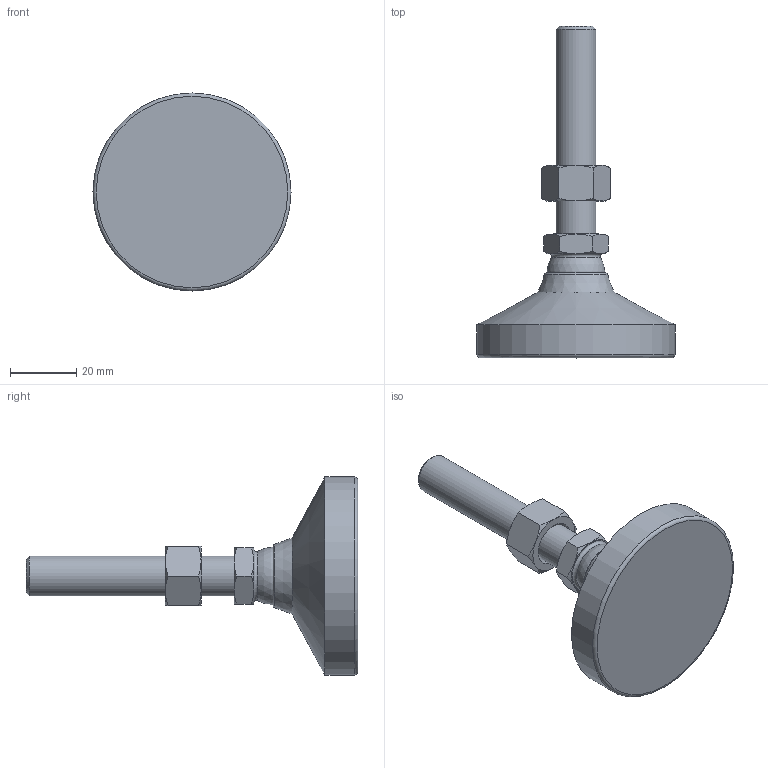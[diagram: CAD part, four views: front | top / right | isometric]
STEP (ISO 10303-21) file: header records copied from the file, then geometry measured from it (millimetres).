
FILE_DESCRIPTION( ( 'STEP AP214' ), ' ' );
FILE_NAME( 'O:/ganter_2015/teil_2/2_5/gn343_2/gn343_2_kr/Levelling foot with threaded stud GN 343.2-60-M12-63-KR-(0).stp', '2015-10-26T09:14:00', ( '' ), ( '' ), ' ', 'PARTsolutions', ' ' );
FILE_SCHEMA( ( 'AUTOMOTIVE_DESIGN { 1 0 10303 214 1 1 1 1 }' ) );
Length unit declared in the file: millimetre
Products named in the file (4): Levelling foot with threaded stud GN 343.2-60-M12-63-KR-(0); _Levelling foot with threaded stud GN 343.2-60-M12-63-KR-(0)_foot; _Levelling foot with threaded stud GN 343.2-60-M12-63-KR-(0)_screw; _Levelling foot with threaded stud GN 343.2-60-M12-63-KR-(0)_nut
Assembly tree (3 placements, depth 2):
  Levelling foot with threaded stud GN 343.2-60-M12-63-KR-(0)
    _Levelling foot with threaded stud GN 343.2-60-M12-63-KR-(0)_foot
    _Levelling foot with threaded stud GN 343.2-60-M12-63-KR-(0)_screw
    _Levelling foot with threaded stud GN 343.2-60-M12-63-KR-(0)_nut
Bounding box: 60 x 100.5 x 60 mm (x, y, z)
Volume: 56423.9 mm3; surface area: 13418 mm2
Topology: 3 solids, 3 shells, 56 faces, 117 edges, 68 vertices
Faces by surface type: cone 29, plane 19, torus 3, cylinder 3, sphere 2
Full cylindrical faces by diameter (mm): 10.106 x1, 12 x1, 60 x1
Entity records: 2066 total; most frequent: CARTESIAN_POINT 498, DIRECTION 212, ORIENTED_EDGE 200, AXIS2_PLACEMENT_3D 100, EDGE_CURVE 100, EDGE_LOOP 72, VERTEX_POINT 66, FACE_OUTER_BOUND 62
